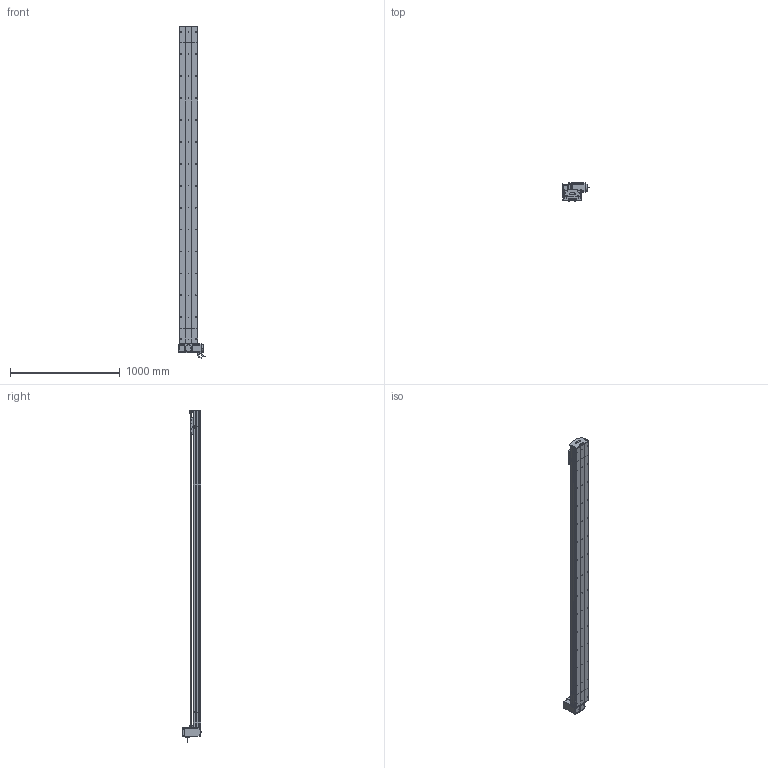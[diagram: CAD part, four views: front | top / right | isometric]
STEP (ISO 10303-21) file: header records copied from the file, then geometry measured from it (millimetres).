
FILE_DESCRIPTION (( 'STEP AP214' ), '1' );
FILE_NAME ('D17 TBH RT S2600.STEP', '2010-06-30T08:49:03', ( 'Christophe Gaillard' ), ( 'SGA' ), 'SwSTEP 2.0', 'SolidWorks 2010', '' );
FILE_SCHEMA (( 'AUTOMOTIVE_DESIGN' ));
Length unit declared in the file: millimetre
Products named in the file (40): Couroie tail D17B_Default; D17 TBH RT S2600; codeur 90BLDC125-640; Arbre+rail head D17B; cache D17_Default; vis M5 L5_Default; Chariot D17; avant 90BLDC125A-640; Conecteur_Default; vis M5 L70_Default; Moteur motionking 90BLDC125A-640; couroie head D17_Default; poulie head_Default; vis M5 L8 90°_Default; Plaque racord D17_Default; vis M5 L16_Default; Vis M5 L16-2_Default; cache arbre D17_Default; Renvoi RT_Default; couvercle D17B course L2600_Default; corp D17B 2600_Default; vis M5 L12_Default; corps 90BLDC125A-640; couvercle D17B_Default; vis M5 L25_Default; course 2600 D17B_Default; Couroie+ rail D17 Course 2600 ; Head RT D17B_Default; corpl head D17 _Default; Conecteur2_Default; Rail D17B; plaque de  bout tail D17B_Default; couvercle D17B head_Default; plaque de  bout head D17B RT_Default; poulie tail_Default; Tail D17B_Default; corpl tail D17B_Default; tete d''axe poulie D17B; chariot D17S_Default; guide D17
Assembly tree (70 placements, depth 4):
  D17 TBH RT S2600
    course 2600 D17B_Default
      couvercle D17B course L2600_Default
      corp D17B 2600_Default
      Couroie+ rail D17 Course 2600 
    Head RT D17B_Default
      vis M5 L16_Default  x2
      vis M5 L5_Default  x4
      Vis M5 L16-2_Default  x4
      couvercle D17B head_Default
      cache arbre D17_Default
      Moteur motionking 90BLDC125A-640
        avant 90BLDC125A-640
        Conecteur_Default
        corps 90BLDC125A-640
        codeur 90BLDC125-640
        Conecteur2_Default
      vis M5 L70_Default  x4
      plaque de  bout head D17B RT_Default
      cache D17_Default  x2
      vis M5 L12_Default  x8
      Renvoi RT_Default
      couroie head D17_Default
      corpl head D17 _Default
      vis M5 L25_Default  x2
      poulie head_Default
      Arbre+rail head D17B
      Plaque racord D17_Default
    chariot D17S_Default
      vis M5 L12_Default  x4
      Chariot D17
      guide D17  x2
    Tail D17B_Default
      vis M5 L12_Default  x4
      Couroie tail D17B_Default
      Rail D17B
      vis M5 L8 90°_Default  x2
      corpl tail D17B_Default
      couvercle D17B_Default
      poulie tail_Default
      plaque de  bout tail D17B_Default
      tete d''axe poulie D17B
      vis M5 L25_Default  x2
Bounding box: 245.2 x 166.15 x 3023.95 mm (x, y, z)
Volume: 17425107.7 mm3; surface area: 5054583.2 mm2
Topology: 94 solids, 94 shells, 2749 faces, 6997 edges, 4502 vertices
Faces by surface type: plane 1607, cylinder 829, bspline 136, cone 88, torus 85, sphere 4
Entity records: 86784 total; most frequent: CARTESIAN_POINT 25497, ORIENTED_EDGE 10766, DIRECTION 10204, EDGE_CURVE 5383, VERTEX_POINT 3526, VECTOR 3518, LINE 3518, AXIS2_PLACEMENT_3D 3343
